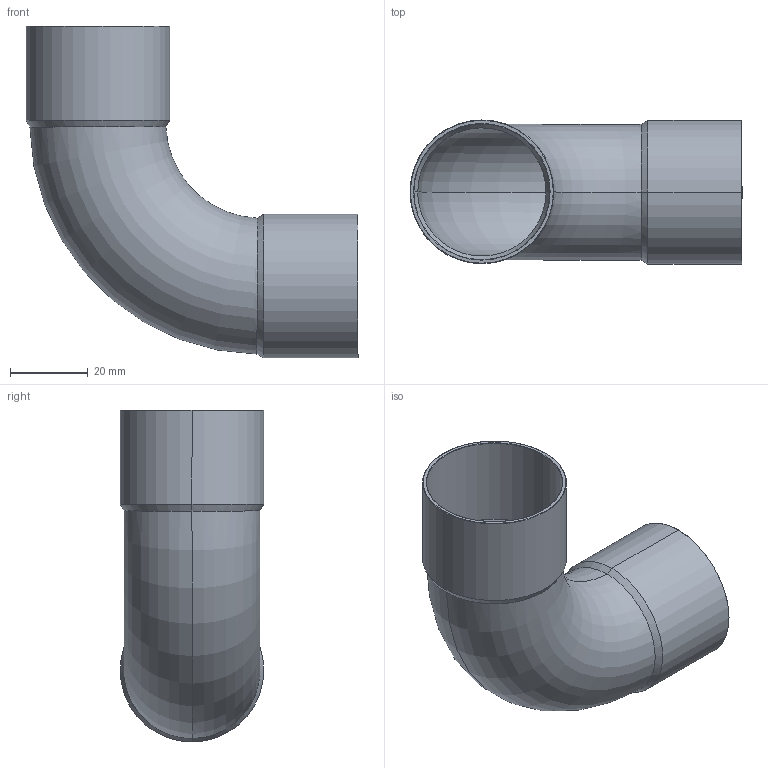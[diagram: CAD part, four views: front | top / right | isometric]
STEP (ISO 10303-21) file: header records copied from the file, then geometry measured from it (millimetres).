
FILE_DESCRIPTION((''),'2;1');
FILE_NAME('D:\5002\15002a35.stp','2005-10-04T11:45:03',('Kris'),(''),'Autodesk Inventor 8','Autodesk Inventor 8','');
FILE_SCHEMA(('AUTOMOTIVE_DESIGN { 1 0 10303 214 1 1 1 1 }'));
Length unit declared in the file: millimetre
Products named in the file (1): 15002a35
Bounding box: 85.5 x 37 x 85.5 mm (x, y, z)
Volume: 12758 mm3; surface area: 25720 mm2
Topology: 1 solids, 1 shells, 30 faces, 60 edges, 32 vertices
Faces by surface type: cone 12, bspline 9, torus 4, cylinder 4, plane 1
Entity records: 1027 total; most frequent: CARTESIAN_POINT 414, DIRECTION 124, ORIENTED_EDGE 120, EDGE_CURVE 60, AXIS2_PLACEMENT_3D 50, VERTEX_POINT 32, EDGE_LOOP 32, FACE_OUTER_BOUND 30
